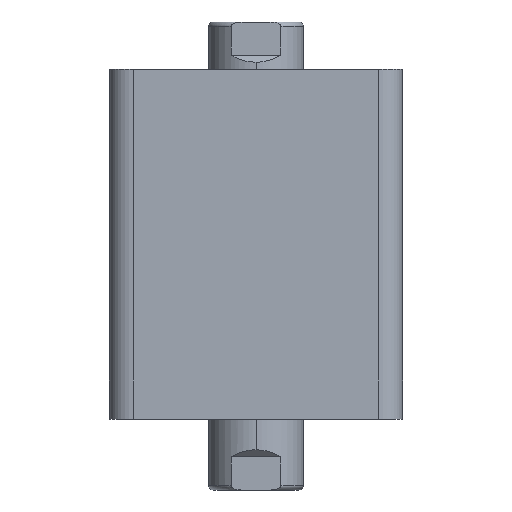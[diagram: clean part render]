
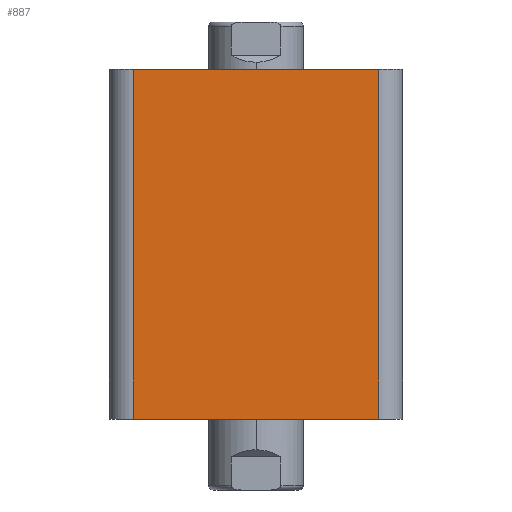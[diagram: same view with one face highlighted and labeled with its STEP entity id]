
A CAD part, left-side view. The second image highlights one B-rep face of the part: STEP entity #887.
In plain terms, the highlighted planar face has unit normal (-1, 0, 0).
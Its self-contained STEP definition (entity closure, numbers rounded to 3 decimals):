
#25 = PLANE ( 'NONE',  #1991 ) ;
#33 = DIRECTION ( 'NONE',  ( 0., 1., 0. ) ) ;
#47 = DIRECTION ( 'NONE',  ( 1., 0., 0. ) ) ;
#56 = CARTESIAN_POINT ( 'NONE',  ( -31., 31., 74. ) ) ;
#79 = CARTESIAN_POINT ( 'NONE',  ( -31., 26., 74. ) ) ;
#106 = CARTESIAN_POINT ( 'NONE',  ( -31., -26., 0. ) ) ;
#112 = CARTESIAN_POINT ( 'NONE',  ( -31., -26., 74. ) ) ;
#295 = CARTESIAN_POINT ( 'NONE',  ( -31., 26., 74. ) ) ;
#299 = CARTESIAN_POINT ( 'NONE',  ( -31., 31., 0. ) ) ;
#301 = DIRECTION ( 'NONE',  ( 0., -1., 0. ) ) ;
#302 = DIRECTION ( 'NONE',  ( 0., 0., -1. ) ) ;
#303 = CARTESIAN_POINT ( 'NONE',  ( -31., 31., 74. ) ) ;
#304 = DIRECTION ( 'NONE',  ( 0., -1., 0. ) ) ;
#305 = CARTESIAN_POINT ( 'NONE',  ( -31., -26., 74. ) ) ;
#307 = DIRECTION ( 'NONE',  ( 0., 0., 1. ) ) ;
#887 = ADVANCED_FACE ( 'NONE', ( #2289 ), #25, .F. ) ;
#1047 = VERTEX_POINT ( 'NONE', #3224 ) ;
#1083 = VERTEX_POINT ( 'NONE', #79 ) ;
#1110 = VERTEX_POINT ( 'NONE', #106 ) ;
#1116 = VERTEX_POINT ( 'NONE', #112 ) ;
#1226 = ORIENTED_EDGE ( 'NONE', *, *, #1366, .T. ) ;
#1227 = ORIENTED_EDGE ( 'NONE', *, *, #1367, .F. ) ;
#1228 = ORIENTED_EDGE ( 'NONE', *, *, #1368, .T. ) ;
#1229 = ORIENTED_EDGE ( 'NONE', *, *, #1365, .T. ) ;
#1365 = EDGE_CURVE ( 'NONE', #1047, #1110, #2445, .T. ) ;
#1366 = EDGE_CURVE ( 'NONE', #1083, #1047, #2442, .T. ) ;
#1367 = EDGE_CURVE ( 'NONE', #1083, #1116, #2449, .T. ) ;
#1368 = EDGE_CURVE ( 'NONE', #1110, #1116, #2451, .T. ) ;
#1991 = AXIS2_PLACEMENT_3D ( 'NONE', #56, #47, #33 ) ;
#2289 = FACE_OUTER_BOUND ( 'NONE', #3021, .T. ) ;
#2442 = LINE ( 'NONE', #295, #2450 ) ;
#2445 = LINE ( 'NONE', #299, #2448 ) ;
#2448 = VECTOR ( 'NONE', #301, 1000. ) ;
#2449 = LINE ( 'NONE', #303, #2452 ) ;
#2450 = VECTOR ( 'NONE', #302, 1000. ) ;
#2451 = LINE ( 'NONE', #305, #2454 ) ;
#2452 = VECTOR ( 'NONE', #304, 1000. ) ;
#2454 = VECTOR ( 'NONE', #307, 1000. ) ;
#3021 = EDGE_LOOP ( 'NONE', ( #1229, #1228, #1227, #1226 ) ) ;
#3224 = CARTESIAN_POINT ( 'NONE',  ( -31., 26., 0. ) ) ;
